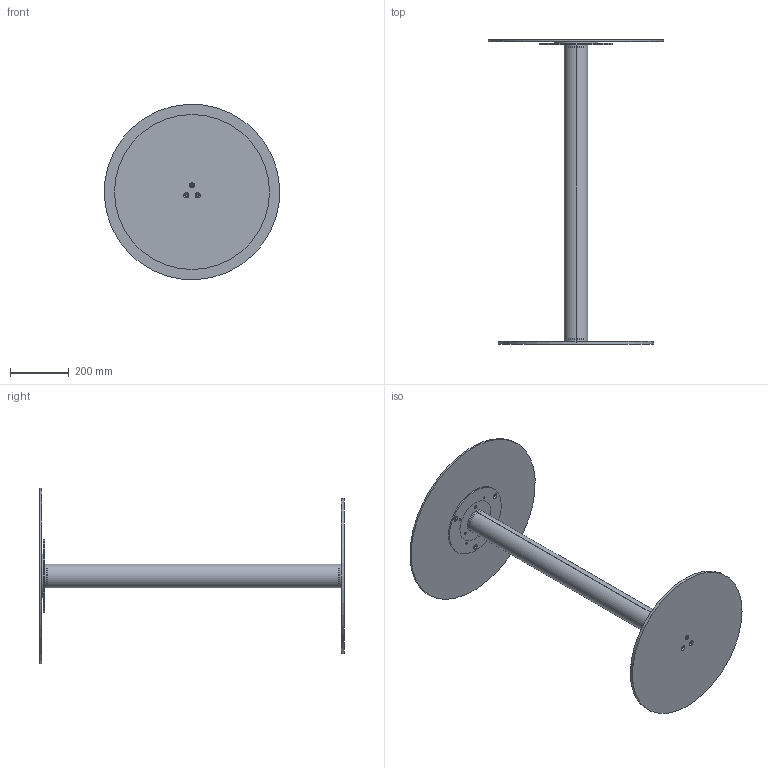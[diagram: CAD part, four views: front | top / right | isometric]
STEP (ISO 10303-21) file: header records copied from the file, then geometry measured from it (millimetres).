
FILE_DESCRIPTION (( 'STEP AP203' ), '1' );
FILE_NAME ('CB10G.STEP', '2024-08-08T08:52:44', ( '' ), ( '' ), 'SwSTEP 2.0', 'SolidWorks 2022', '' );
FILE_SCHEMA (( 'CONFIG_CONTROL_DESIGN' ));
Length unit declared in the file: millimetre
Products named in the file (8): P0000006-00-PIASTRA D.150mm X PIANI CER_CRI_MARMO_PIASTRA; C1XCRMXX-00-piani Rotondi Cristallo_C01 D.60cm; CBSH00000COL-01-CILINDRO BISTRO COLONNA H105; CB10G; CBS100000PST-00-CONTROPIASTRA PER PIASTRA D.15cm GREZZO; CBS200000PST-00-CONTROPIASTRA PER PIASTRA D.25cm GREZZO_250; CBS000000BAS-00-BISTRO PIASTRA INFERIORE_D.530; CXXCRXX-00-Piani Rotondi in Cristallo CON PIASTRA_C01P PIANO CRISTALLO D.60cm
Assembly tree (7 placements, depth 3):
  CB10G
    CBS000000BAS-00-BISTRO PIASTRA INFERIORE_D.530
    CBSH00000COL-01-CILINDRO BISTRO COLONNA H105
    CXXCRXX-00-Piani Rotondi in Cristallo CON PIASTRA_C01P PIANO CRISTALLO D.60cm
      C1XCRMXX-00-piani Rotondi Cristallo_C01 D.60cm
      P0000006-00-PIASTRA D.150mm X PIANI CER_CRI_MARMO_PIASTRA
    CBS100000PST-00-CONTROPIASTRA PER PIASTRA D.15cm GREZZO
    CBS200000PST-00-CONTROPIASTRA PER PIASTRA D.25cm GREZZO_250
Bounding box: 598.71 x 1041 x 598.71 mm (x, y, z)
Volume: 4871831.1 mm3; surface area: 1731698.2 mm2
Topology: 8 solids, 8 shells, 126 faces, 298 edges, 188 vertices
Faces by surface type: cylinder 78, cone 32, plane 16
Entity records: 4668 total; most frequent: DIRECTION 760, CARTESIAN_POINT 623, ORIENTED_EDGE 596, AXIS2_PLACEMENT_3D 325, EDGE_CURVE 298, EDGE_LOOP 188, CIRCLE 188, VERTEX_POINT 188
